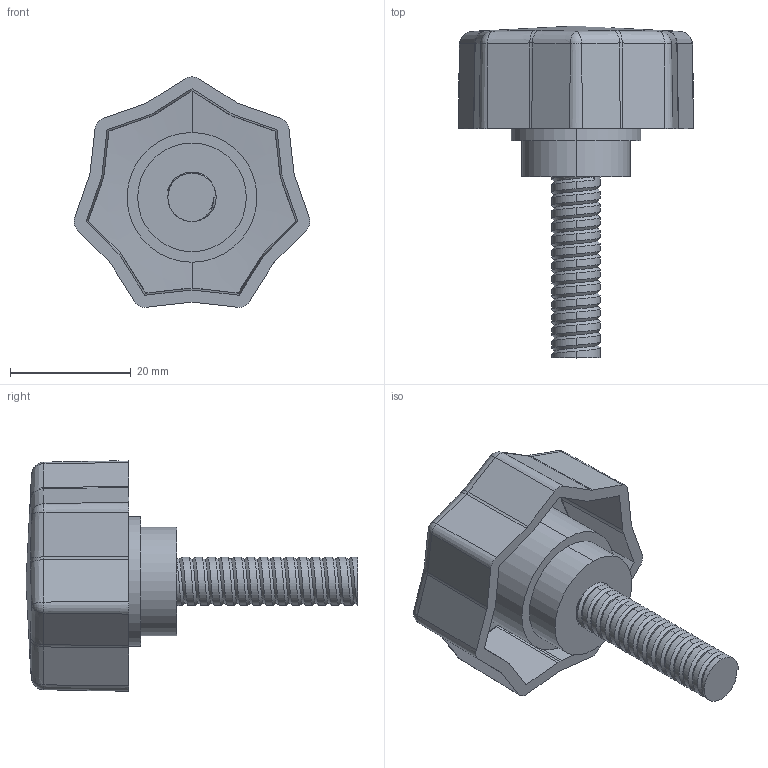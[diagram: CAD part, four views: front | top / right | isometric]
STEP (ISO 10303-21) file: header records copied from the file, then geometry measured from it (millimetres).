
FILE_DESCRIPTION (( 'STEP AP203' ), '1' );
FILE_NAME ('AP-1050-40-M8-30.STEP', '2015-11-23T12:00:34', ( '' ), ( '' ), 'SwSTEP 2.0', 'SolidWorks 2014', '' );
FILE_SCHEMA (( 'CONFIG_CONTROL_DESIGN' ));
Length unit declared in the file: millimetre
Products named in the file (1): AP-1050-40-M8-30
Bounding box: 39.1 x 55 x 38.21 mm (x, y, z)
Volume: 14242.9 mm3; surface area: 7768.8 mm2
Topology: 1 solids, 1 shells, 147 faces, 375 edges, 224 vertices
Faces by surface type: cylinder 51, bspline 51, plane 34, cone 11
Entity records: 7744 total; most frequent: CARTESIAN_POINT 4814, ORIENTED_EDGE 732, DIRECTION 416, EDGE_CURVE 366, VERTEX_POINT 224, EDGE_LOOP 150, ADVANCED_FACE 147, FACE_OUTER_BOUND 147
